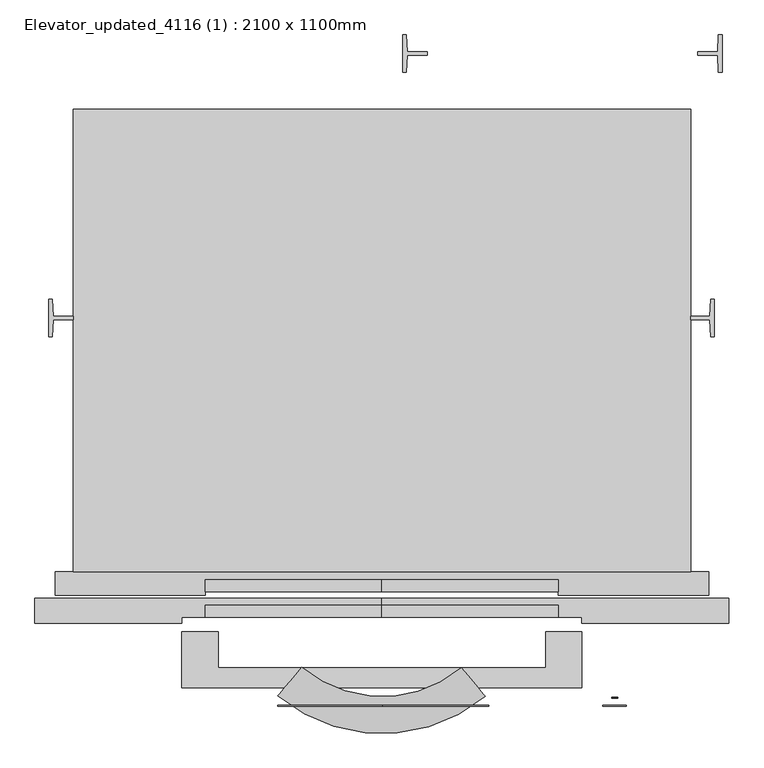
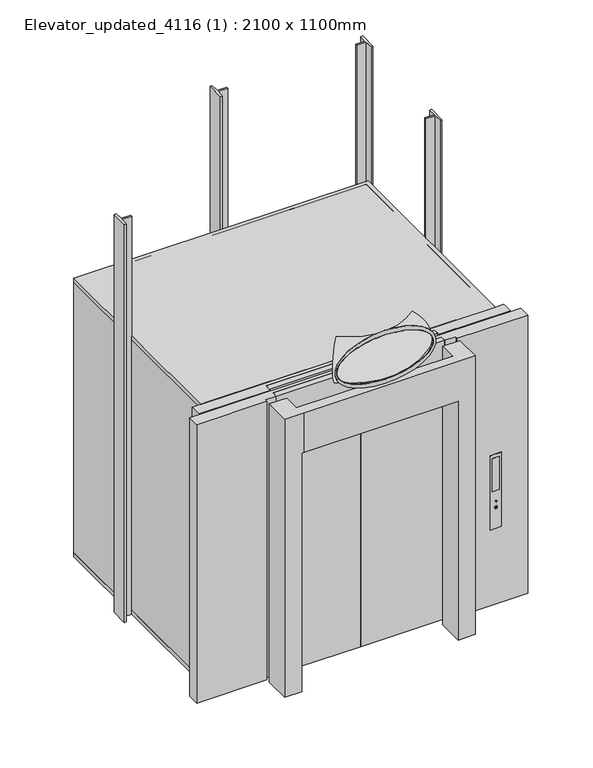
"""IFC4 building model written with IfcOpenShell, lengths in millimetres: proxy geometry, Elevator_updated_4116 (1) : 2100 x 1100mm."""

from ifc_helpers import new_model, si_unit, point, frame, frame_2d, origin, origin_with_axes, place, context, project, spatial, polyline, circle_curve, ellipse_curve, trimmed, segment, composite_curve, outline, extrude, faceted_brep, source, transform, mapped, element, save
from ifc_brep_helpers import plane_surface, revolved_surface, extruded_surface, advanced_brep


def elevator_updated_4116_1_2100_x_1100mm_5fb4b6ca(model_context):
    return source(origin(), model_context, "Body", "SolidModel", [
        advanced_brep(
        [(500.8311755, -452.698127, 2539.1396764), (500.8311755, -452.698127, 2199.1396764), (-42.5298936, -450.9235844, 2539.1396764), (-42.5298936, -450.9235844, 2199.1396764)],
        [
            (0, 1, circle_curve(frame((468.7185736, -414.1006251, 2369.1396764), z_axis=(0.768730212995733, 0.6395731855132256, 0.0), x_axis=(-0.6395731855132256, 0.768730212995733, 0.0)), 177.259658)),
            (1, 0),
            (2, 3),
            (3, 2, circle_curve(frame((-10.1658711, -412.5366542, 2369.1396764), z_axis=(-0.7645363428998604, 0.6445806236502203, 0.0), x_axis=(0.6445806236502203, 0.7645363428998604, 0.0)), 177.259658)),
            (3, 1, circle_curve(frame((230.2100339, -127.4270673, 2199.1396764), z_axis=(0.0, 0.0, 1.0), x_axis=(0.6395731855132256, -0.768730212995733, 0.0)), 423.1277166)),
            (0, 2, circle_curve(frame((230.2100339, -127.4270673, 2539.1396764), z_axis=(0.0, 0.0, -1.0), x_axis=(0.6395731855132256, -0.768730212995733, 0.0)), 423.1277166)),
        ],
        [
            plane_surface(frame((230.2100339, -127.4270673, 1800.0), z_axis=(0.7687302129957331, 0.6395731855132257, 0.0), x_axis=(0.6395731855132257, -0.7687302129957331, 0.0))),
            plane_surface(frame((230.2100339, -127.4270673, 1800.0), z_axis=(-0.7645363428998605, 0.6445806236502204, 0.0), x_axis=(-0.6445806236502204, -0.7645363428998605, 0.0))),
            revolved_surface(trimmed(ellipse_curve(frame((468.7185736, -414.1006251, 2369.1396764), z_axis=(0.768730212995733, 0.6395731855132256, 0.0), x_axis=(-0.6395731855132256, 0.768730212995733, 0.0)), 177.259658, 177.259658), [point((500.8311755, -452.698127, 2539.1396764))], [point((500.8311755, -452.698127, 2199.1396764))], True, "CARTESIAN"), (230.2100339, -127.4270673, 1800.0), (0.0, 0.0, -1.0)),
            revolved_surface(polyline([(500.83117548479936, -452.6981270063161, 2199.1396764), (500.83117548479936, -452.6981270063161, 2539.1396764)]), (230.2100339, -127.4270673, 1800.0), (0.0, 0.0, -1.0)),
        ],
        [
            (0, [[1, 2]]),
            (1, [[3, 4]]),
            (2, [[5, -1, 6, -4]]),
            (3, [[-6, -2, -5, -3]]),
        ],
    ),
        extrude(outline(polyline([(1387.8068056, 1572.5467426), (1374.8068533, 1572.5467426), (1371.8068533, 1629.7467425), (1304.3067824, 1629.7467425), (1304.3067824, 1642.2423587), (1371.893071, 1642.2423587), (1374.8068532, 1699.5467426), (1387.8068056, 1699.5467426), (1387.8068056, 1572.5467426)])), origin_with_axes(), (0.0, 0.0, 1.0), 3000.0),
        extrude(outline(polyline([(300.8067593, 1572.5467426), (300.8067593, 1699.5467426), (313.8067116, 1699.5467426), (316.7204939, 1642.2423587), (384.3067824, 1642.2423587), (384.3067824, 1629.7467425), (316.8067116, 1629.7467425), (313.8067116, 1572.5467426), (300.8067593, 1572.5467426)])), origin_with_axes(), (0.0, 0.0, 1.0), 3000.0),
        extrude(outline(polyline([(1361.2100334, 673.4135645), (1348.2100334, 673.4135645), (1345.2100334, 730.6132247), (1280.2100339, 730.6132247), (1280.2100339, 743.1088408), (1345.2962512, 743.1088408), (1348.2100334, 800.4135645), (1361.2100334, 800.4135645), (1361.2100334, 673.4135645)])), origin_with_axes(), (0.0, 0.0, 1.0), 3000.0),
        extrude(outline(polyline([(-903.2899892, 673.4132248), (-903.2899892, 800.4132248), (-890.2900369, 800.4132248), (-887.3762547, 743.1088408), (-819.7899661, 743.1088408), (-819.7899661, 730.6132247), (-887.2900369, 730.6132247), (-890.2900369, 673.4132248), (-903.2899892, 673.4132248)])), origin_with_axes(), (0.0, 0.0, 1.0), 3000.0),
        faceted_brep([(-310.0035134, -520.0264029, 2100.0), (910.4235812, -520.0264029, 2100.0), (910.4235812, -330.6050169, 2100.0), (787.4235812, -330.6050169, 2100.0), (787.4235812, -453.0264029, 2100.0), (-327.0035134, -453.0264029, 2100.0), (-327.0035134, -330.6050169, 2100.0), (-450.0035134, -330.6050169, 2100.0), (-450.0035134, -520.0264029, 2100.0), (-450.0035134, -520.0264029, 0.0), (-450.0035134, -330.6050169, 0.0), (-327.0035134, -330.6050169, 0.0), (-327.0035134, -520.0264029, 0.0), (787.4235812, -520.0264029, 0.0), (787.4235812, -330.6050169, 0.0), (910.4235812, -330.6050169, 0.0), (910.4235812, -520.0264029, 0.0), (-310.0035134, -520.0264029, 1800.0), (787.4235812, -520.0264029, 1800.0), (787.4235812, -453.0264029, 1800.0), (-327.0035134, -453.0264029, 1800.0), (-327.0035134, -520.0264029, 1800.0)], [[[0, 1, 2, 3, 4, 5, 6, 7, 8]], [[9, 10, 11, 12]], [[13, 14, 15, 16]], [[1, 0, 17, 18, 13, 16]], [[2, 1, 16, 15]], [[14, 3, 2, 15]], [[4, 3, 14, 13, 18, 19]], [[5, 4, 19, 20]], [[6, 5, 20, 21, 12, 11]], [[7, 6, 11, 10]], [[8, 7, 10, 9]], [[0, 8, 9, 12, 21, 17]], [[19, 18, 17, 21, 20]]]),
        advanced_brep(
        [(233.3228665, -582.7050169, 2167.0744476), (233.3228665, -582.7050169, 2567.0744476), (229.9265002, -582.7050169, 2534.0843368), (229.9265002, -582.7050169, 2201.6396764), (233.3228665, -580.6050169, 2167.0744476), (233.3228665, -580.6050169, 2567.0744476), (229.9265002, -580.6050169, 2534.0843368), (229.9265002, -580.6050169, 2201.6396764)],
        [
            (0, 1, ellipse_curve(frame((233.3228665, -582.7050169, 2367.0744476), z_axis=(0.0, -1.0, 0.0), x_axis=(-1.0, 0.0, 0.0)), 360.0, 200.0)),
            (1, 0, ellipse_curve(frame((233.3228665, -582.7050169, 2367.0744476), z_axis=(0.0, -1.0, 0.0), x_axis=(-1.0, 0.0, 0.0)), 360.0, 200.0)),
            (2, 3, ellipse_curve(frame((229.9265002, -582.7050169, 2367.8620066), z_axis=(0.0, 1.0, 0.0), x_axis=(-1.0, 0.0, 0.0)), 345.0, 166.2223302)),
            (3, 2, ellipse_curve(frame((229.9265002, -582.7050169, 2367.8620066), z_axis=(0.0, 1.0, 0.0), x_axis=(-1.0, 0.0, 0.0)), 345.0, 166.2223302)),
            (4, 5, ellipse_curve(frame((233.3228665, -580.6050169, 2367.0744476), z_axis=(0.0, 1.0, 0.0), x_axis=(0.0, 0.0, 1.0)), 200.0, 360.0)),
            (5, 4, ellipse_curve(frame((233.3228665, -580.6050169, 2367.0744476), z_axis=(0.0, 1.0, 0.0), x_axis=(0.0, 0.0, 1.0)), 200.0, 360.0)),
            (6, 7, ellipse_curve(frame((229.9265002, -580.6050169, 2367.8620066), z_axis=(0.0, -1.0, 0.0), x_axis=(-1.0, 0.0, 0.0)), 345.0, 166.2223302)),
            (7, 6, ellipse_curve(frame((229.9265002, -580.6050169, 2367.8620066), z_axis=(0.0, -1.0, 0.0), x_axis=(-1.0, 0.0, 0.0)), 345.0, 166.2223302)),
            (0, 4),
            (5, 1),
            (2, 6),
            (7, 3),
        ],
        [
            plane_surface(frame((233.3228665, -582.7050169, 2567.0744476), z_axis=(0.0, -1.0, 0.0), x_axis=(-1.0, 0.0, 0.0))),
            plane_surface(frame((233.3228665, -580.6050169, 2567.0744476), z_axis=(0.0, 1.0, 0.0), x_axis=(1.0, 0.0, 0.0))),
            extruded_surface(trimmed(ellipse_curve(frame((233.3228665, -578.5050169, 2367.0744476), z_axis=(0.0, -1.0, 0.0), x_axis=(0.0, 0.0, 1.0)), 200.0, 360.0), [point((233.3228665, -578.5050169, 2167.0744476))], [point((233.3228665, -578.5050169, 2567.0744476))], True, "CARTESIAN"), (0.0, -2.1000000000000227, 0.0), 2.1000000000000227),
            extruded_surface(trimmed(ellipse_curve(frame((233.3228665, -578.5050169, 2367.0744476), z_axis=(0.0, -1.0, 0.0), x_axis=(0.0, 0.0, 1.0)), 200.0, 360.0), [point((233.3228665, -578.5050169, 2567.0744476))], [point((233.3228665, -578.5050169, 2167.0744476))], True, "CARTESIAN"), (0.0, -2.1000000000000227, 0.0), 2.1000000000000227),
            extruded_surface(trimmed(ellipse_curve(frame((229.9265002, -328.5050169, 2367.8620066), z_axis=(0.0, 1.0, 0.0), x_axis=(0.0, 0.0, -1.0)), 166.2223302, 345.0), [point((229.9265002, -328.5050169, 2534.0843368))], [point((229.9265002, -328.5050169, 2201.6396764))], True, "CARTESIAN"), (0.0, -2.1000000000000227, 0.0), 2.1000000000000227),
            extruded_surface(trimmed(ellipse_curve(frame((229.9265002, -328.5050169, 2367.8620066), z_axis=(0.0, 1.0, 0.0), x_axis=(0.0, 0.0, -1.0)), 166.2223302, 345.0), [point((229.9265002, -328.5050169, 2201.6396764))], [point((229.9265002, -328.5050169, 2534.0843368))], True, "CARTESIAN"), (0.0, -2.1000000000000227, 0.0), 2.1000000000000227),
        ],
        [
            (0, [[1, 2], [3, 4]]),
            (1, [[5, 6], [7, 8]]),
            (2, [[-1, 9, -6, 10]]),
            (3, [[-2, -10, -5, -9]]),
            (4, [[-3, 11, -8, 12]]),
            (5, [[-4, -12, -7, -11]]),
        ],
    ),
        extrude(outline(polyline([(1008.9127767, 1021.7785059), (995.0524506, 1021.7785059), (995.0524506, 1022.5772134), (1008.9127767, 1022.5772134), (1004.977049, 1028.1980152), (1005.5866656, 1028.8076319), (1010.2288821, 1022.1778597), (1005.5866656, 1015.5480875), (1004.977049, 1016.1577041), (1008.9127767, 1021.7785059)])), frame((0.0, -583.7098941, 0.0), z_axis=(0.0, 1.0, 0.0), x_axis=(0.0, 0.0, 1.0)), (0.0, 0.0, 1.0), 1.8423941),
        extrude(outline(polyline([(951.1921246, 1021.7785059), (955.1278523, 1016.1577041), (954.5182357, 1015.5480875), (949.8760192, 1022.1778597), (954.5182357, 1028.8076319), (955.1278523, 1028.1980152), (951.1921246, 1022.5772134), (965.0524506, 1022.5772134), (965.0524506, 1021.7785059), (951.1921246, 1021.7785059)])), frame((0.0, -583.7098941, 0.0), z_axis=(0.0, 1.0, 0.0), x_axis=(0.0, 0.0, 1.0)), (0.0, 0.0, 1.0), 1.8423941),
        extrude(outline(composite_curve([segment(trimmed(circle_curve(frame_2d((958.0344126, 1022.0419434)), 10.0), [point((958.0344126, 1012.0419434))], [point((958.0344126, 1032.0419434))], False, "CARTESIAN"), True, "CONTINUOUS"), segment(trimmed(circle_curve(frame_2d((958.0344126, 1022.0419434)), 10.0), [point((958.0344126, 1032.0419434))], [point((958.0344126, 1012.0419434))], False, "CARTESIAN"), True, "CONTINUOUS")], self_intersect=False)), frame((0.0, -554.719947, 0.0), z_axis=(0.0, 1.0, 0.0), x_axis=(0.0, 0.0, 1.0)), (0.0, 0.0, 1.0), 2.1149301),
        extrude(outline(polyline([(1045.8573152, -582.719947), (995.8573152, -582.719947), (995.8573152, -580.6050169), (1045.8573152, -580.6050169), (1045.8573152, -582.719947)])), frame((0.0, 0.0, 1084.2103885), z_axis=(0.0, 0.0, 1.0), x_axis=(1.0, 0.0, 0.0)), (0.0, 0.0, 1.0), 250.0),
        extrude(outline(composite_curve([segment(trimmed(circle_curve(frame_2d((958.0344126, 1022.0419434)), 10.0), [point((958.0344126, 1012.0419434))], [point((958.0344126, 1032.0419434))], False, "CARTESIAN"), True, "CONTINUOUS"), segment(trimmed(circle_curve(frame_2d((958.0344126, 1022.0419434)), 10.0), [point((958.0344126, 1032.0419434))], [point((958.0344126, 1012.0419434))], False, "CARTESIAN"), True, "CONTINUOUS")], self_intersect=False)), frame((0.0, -554.719947, 0.0), z_axis=(0.0, 1.0, 0.0), x_axis=(0.0, 0.0, 1.0)), (0.0, 0.0, 1.0), 2.1149301),
        extrude(outline(composite_curve([segment(trimmed(circle_curve(frame_2d((1003.0344126, 1022.0419434)), 10.0), [point((1003.0344126, 1012.0419434))], [point((1003.0344126, 1032.0419434))], False, "CARTESIAN"), True, "CONTINUOUS"), segment(trimmed(circle_curve(frame_2d((1003.0344126, 1022.0419434)), 10.0), [point((1003.0344126, 1032.0419434))], [point((1003.0344126, 1012.0419434))], False, "CARTESIAN"), True, "CONTINUOUS")], self_intersect=False)), frame((0.0, -555.7098941, 0.0), z_axis=(0.0, 1.0, 0.0), x_axis=(0.0, 0.0, 1.0)), (0.0, 0.0, 1.0), 1.8423941),
        extrude(outline(polyline([(1360.0, 980.8185967), (800.0, 980.8185967), (800.0, 1060.8185967), (1360.0, 1060.8185967), (1360.0, 980.8185967)]), holes=[composite_curve([segment(trimmed(circle_curve(frame_2d((958.0344126, 1022.0419434)), 10.0), [point((958.0344126, 1032.0419434))], [point((958.0344126, 1012.0419434))], True, "CARTESIAN"), True, "CONTINUOUS"), segment(trimmed(circle_curve(frame_2d((958.0344126, 1022.0419434)), 10.0), [point((958.0344126, 1012.0419434))], [point((958.0344126, 1032.0419434))], True, "CARTESIAN"), True, "CONTINUOUS")], self_intersect=False)]), frame((0.0, -582.719947, 0.0), z_axis=(0.0, 1.0, 0.0), x_axis=(0.0, 0.0, 1.0)), (0.0, 0.0, 1.0), 2.1149301),
        extrude(outline(polyline([(1280.2100339, 1446.0781578), (1280.2100339, -125.3299298), (-819.7899661, -125.3299298), (-819.7899661, 1446.0781578), (1280.2100339, 1446.0781578)])), frame((0.0, 0.0, 2070.0), z_axis=(0.0, 0.0, 1.0), x_axis=(1.0, 0.0, 0.0)), (0.0, 0.0, 1.0), 30.0),
        extrude(outline(polyline([(1280.2100339, 1446.0781578), (1280.2100339, -125.3299298), (-819.7899661, -125.3299298), (-819.7899661, 1446.0781578), (1280.2100339, 1446.0781578)])), origin_with_axes(), (0.0, 0.0, 1.0), 30.0),
        extrude(outline(polyline([(230.2100339, -193.9218422), (230.2100339, -153.9218422), (830.2100339, -153.9218422), (830.2100339, -193.9218422), (230.2100339, -193.9218422)])), origin_with_axes(), (0.0, 0.0, 1.0), 2100.0),
        extrude(outline(polyline([(230.2100339, -193.9218422), (-369.7899661, -193.9218422), (-369.7899661, -153.9218422), (230.2100339, -153.9218422), (230.2100339, -193.9218422)])), origin_with_axes(), (0.0, 0.0, 1.0), 2100.0),
        extrude(outline(polyline([(230.2100339, -280.3299298), (230.2100339, -240.3299298), (830.2100339, -240.3299298), (830.2100339, -280.3299298), (230.2100339, -280.3299298)])), origin_with_axes(), (0.0, 0.0, 1.0), 2100.0),
        extrude(outline(polyline([(230.2100339, -280.3299298), (-369.7899661, -280.3299298), (-369.7899661, -240.3299298), (230.2100339, -240.3299298), (230.2100339, -280.3299298)])), origin_with_axes(), (0.0, 0.0, 1.0), 2100.0),
        extrude(outline(polyline([(230.2100339, -215.3299298), (1410.2100339, -215.3299298), (1410.2100339, -300.3299298), (910.2100339, -300.3299298), (910.2100339, -280.3299298), (830.2100339, -280.3299298), (830.2100339, -240.3299298), (230.2100339, -240.3299298), (230.2100339, -215.3299298)])), origin_with_axes(), (0.0, 0.0, 1.0), 2100.0),
        extrude(outline(polyline([(230.2100339, -215.3299298), (230.2100339, -240.3299298), (-369.7899661, -240.3299298), (-369.7899661, -280.3299298), (-449.7899661, -280.3299298), (-449.7899661, -300.3299298), (-949.7899661, -300.3299298), (-949.7899661, -215.3299298), (230.2100339, -215.3299298)])), origin_with_axes(), (0.0, 0.0, 1.0), 2100.0),
        extrude(outline(polyline([(-819.7899661, 1446.0781578), (1280.2100339, 1446.0781578), (1280.2100339, -125.3299298), (1341.4271595, -125.3299298), (1341.4271595, -205.3299298), (830.2100339, -205.3299298), (830.2100339, -153.9218422), (-369.7899661, -153.9218422), (-369.7899661, -205.3299298), (-881.0070918, -205.3299298), (-881.0070918, -125.3299298), (-819.7899661, -125.3299298), (-819.7899661, 1446.0781578)]), holes=[polyline([(-789.7899661, -123.9218422), (1250.2100339, -123.9218422), (1250.2100339, -123.5690804), (776.5730008, -123.5690804), (776.5730008, -73.2163186), (1241.5730008, -73.2163186), (1250.2100339, -73.2163186), (1250.2100339, 1416.0781578), (-789.7899661, 1416.0781578), (-789.7899661, -73.2163186), (-781.1529331, -73.2163186), (-316.1529331, -73.2163186), (-316.1529331, -123.5690804), (-789.7899661, -123.5690804), (-789.7899661, -123.9218422)])]), origin_with_axes(), (0.0, 0.0, 1.0), 2100.0),
    ])


if __name__ == "__main__":
    model = new_model("IFC4")
    model_context = context("Model", 3, world=origin())
    ifc_project = project(units=[si_unit("LENGTHUNIT", "METRE", prefix="MILLI")], contexts=[model_context])
    site = spatial("IfcSite", under=ifc_project)
    building = spatial("IfcBuilding", under=site)
    placement = place(None, origin())
    elevator_updated_4116_1_2100_x_1100mm_shape = elevator_updated_4116_1_2100_x_1100mm_5fb4b6ca(model_context)
    element("IfcBuildingElementProxy", 1, Name="Elevator_updated_4116 (1) : 2100 x 1100mm", ObjectType="Elevator_updated_4116 (1) : 2100 x 1100mm", at=placement, inside=building, context=model_context, shape_type="MappedRepresentation", body=[
        mapped(elevator_updated_4116_1_2100_x_1100mm_shape, transform((0.0, 0.0, 0.0), x_axis=(1.0, 0.0, 0.0), y_axis=(0.0, 1.0, 0.0), z_axis=(0.0, 0.0, 1.0))),
    ])
    save(model, "model.ifc")
